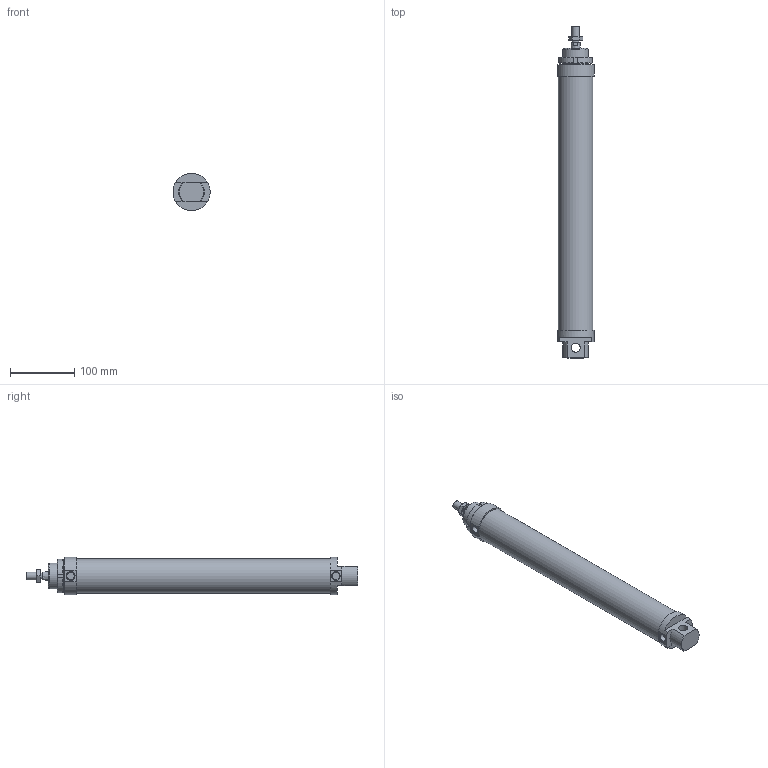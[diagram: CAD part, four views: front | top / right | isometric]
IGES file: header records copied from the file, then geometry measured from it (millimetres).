
Global section: file name: No Iges File Name specified; native system: AutoDesk Inventor R6.0; preprocessor: AutoDesk Inventor Iges Exporter R6.0; author: No Author specified; organization: No Organization specified; date: 20030402.145051; units: millimetre
Bounding box: 56.51 x 517 x 58 mm (x, y, z)
Surface area: 129168.8 mm2 (no closed solid volume)
Topology: 0 solids, 0 shells, 94 faces, 413 edges, 395 vertices
Faces by surface type: plane 44, revolution 39, bspline 11
